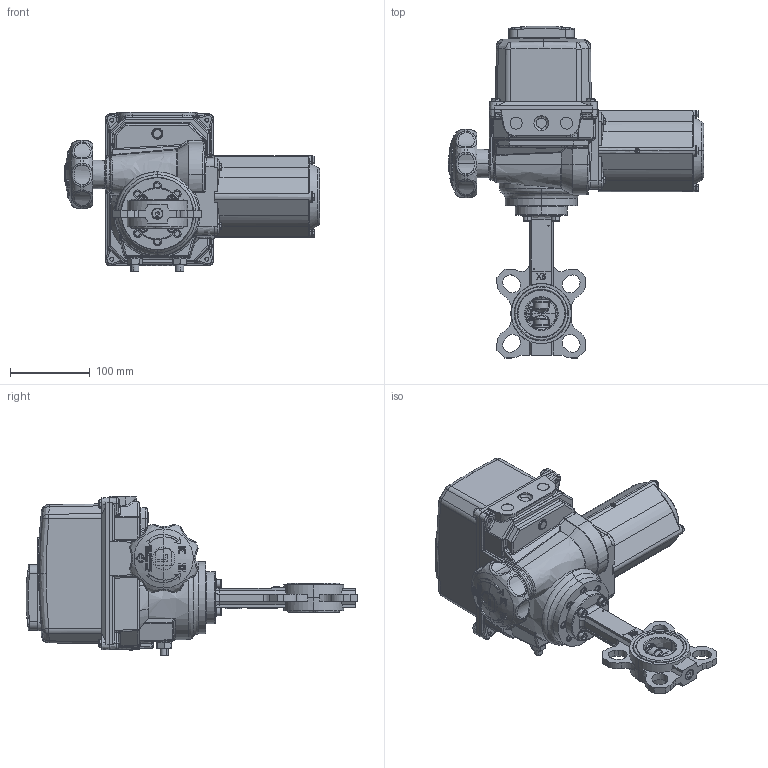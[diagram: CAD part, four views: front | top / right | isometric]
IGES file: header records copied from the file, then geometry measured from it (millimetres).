
Start section: SolidWorks IGES file using NURBS representation for surfaces
Global section: file name: H:\BE BIBLIOTHEQUE 3D\Projet_Biblio3D_2016\FSK\VPI\VPI-B04\VPI-B04 DN40.Igs; native system: SolidWorks 2014; preprocessor: SolidWorks 2014; author: a.cartier; date: 160929.163844; units: millimetre
Bounding box: 319.25 x 415.2 x 199.8 mm (x, y, z)
Volume: 5163663.5 mm3; surface area: 307062.1 mm2
Topology: 14 solids, 14 shells, 2799 faces, 7293 edges, 4563 vertices
Faces by surface type: bspline 2799
